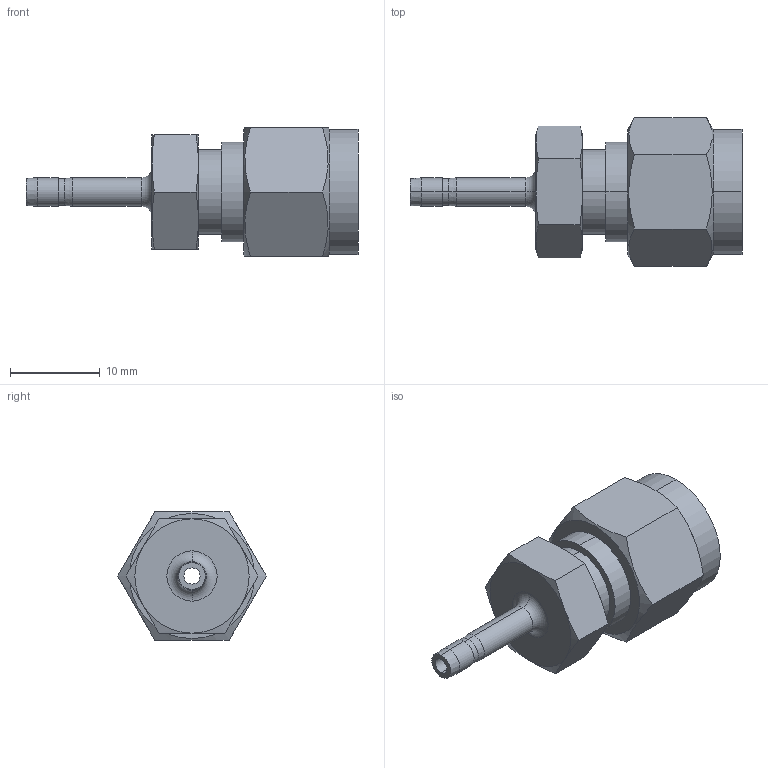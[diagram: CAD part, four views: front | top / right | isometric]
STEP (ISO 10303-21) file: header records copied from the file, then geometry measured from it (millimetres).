
FILE_DESCRIPTION (( 'STEP AP203' ), '1' );
FILE_NAME ('DRE04-02 SS.STEP', '2009-09-08T08:37:21', ( ' ' ), ( '' ), 'SwSTEP 2.0', 'SolidWorks 2008', '' );
FILE_SCHEMA (( 'CONFIG_CONTROL_DESIGN' ));
Length unit declared in the file: millimetre
Products named in the file (1): DRE04-02 SS
Bounding box: 36.9 x 16.5 x 14.29 mm (x, y, z)
Volume: 2827.7 mm3; surface area: 2034.8 mm2
Topology: 1 solids, 1 shells, 63 faces, 138 edges, 82 vertices
Faces by surface type: cone 24, plane 19, cylinder 18, torus 2
Entity records: 1917 total; most frequent: CARTESIAN_POINT 492, DIRECTION 282, ORIENTED_EDGE 276, EDGE_CURVE 138, AXIS2_PLACEMENT_3D 120, VERTEX_POINT 82, EDGE_LOOP 70, FACE_OUTER_BOUND 63
